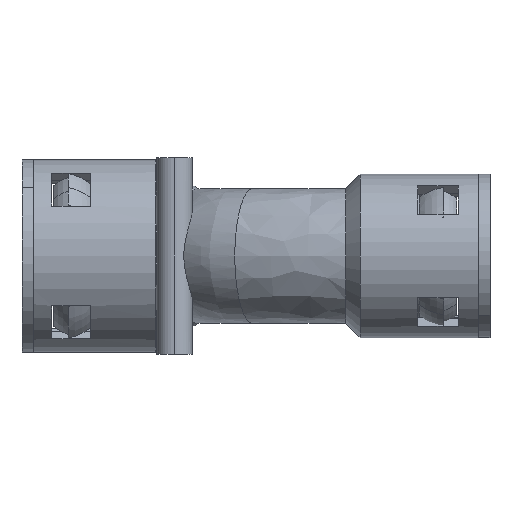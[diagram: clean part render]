
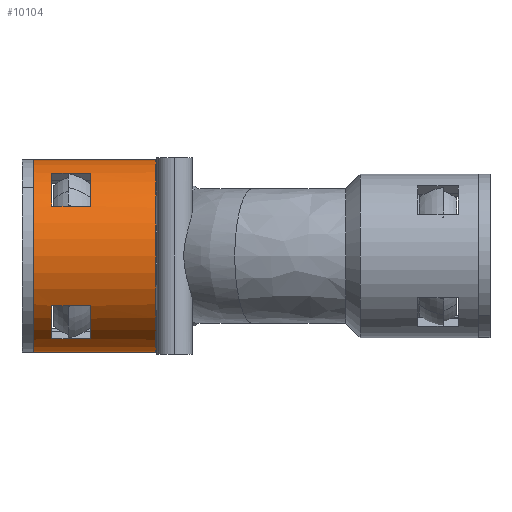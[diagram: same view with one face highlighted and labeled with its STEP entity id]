
A CAD part, left-side view. The second image highlights one B-rep face of the part: STEP entity #10104.
In plain terms, the highlighted cylindrical face has radius 26 mm (diameter 52 mm), a partial arc.
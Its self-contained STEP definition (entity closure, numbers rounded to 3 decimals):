
#237 = EDGE_CURVE ( 'NONE', #263, #972, #3185, .T. ) ;
#253 = VERTEX_POINT ( 'NONE', #3183 ) ;
#263 = VERTEX_POINT ( 'NONE', #1382 ) ;
#264 = ORIENTED_EDGE ( 'NONE', *, *, #527, .F. ) ;
#291 = EDGE_CURVE ( 'NONE', #952, #316, #1384, .T. ) ;
#299 = EDGE_CURVE ( 'NONE', #253, #356, #1377, .T. ) ;
#302 = ORIENTED_EDGE ( 'NONE', *, *, #551, .F. ) ;
#316 = VERTEX_POINT ( 'NONE', #1504 ) ;
#339 = VERTEX_POINT ( 'NONE', #1444 ) ;
#356 = VERTEX_POINT ( 'NONE', #1481 ) ;
#357 = ORIENTED_EDGE ( 'NONE', *, *, #299, .F. ) ;
#369 = EDGE_CURVE ( 'NONE', #316, #263, #1454, .T. ) ;
#374 = ORIENTED_EDGE ( 'NONE', *, *, #369, .F. ) ;
#384 = EDGE_CURVE ( 'NONE', #339, #253, #1455, .T. ) ;
#393 = ORIENTED_EDGE ( 'NONE', *, *, #384, .F. ) ;
#397 = EDGE_LOOP ( 'NONE', ( #357, #393, #264, #302 ) ) ;
#404 = ORIENTED_EDGE ( 'NONE', *, *, #291, .F. ) ;
#527 = EDGE_CURVE ( 'NONE', #544, #339, #1608, .T. ) ;
#544 = VERTEX_POINT ( 'NONE', #1668 ) ;
#551 = EDGE_CURVE ( 'NONE', #356, #544, #1661, .T. ) ;
#879 = ORIENTED_EDGE ( 'NONE', *, *, #237, .F. ) ;
#952 = VERTEX_POINT ( 'NONE', #2339 ) ;
#966 = EDGE_CURVE ( 'NONE', #972, #952, #2152, .T. ) ;
#972 = VERTEX_POINT ( 'NONE', #2349 ) ;
#1363 = DIRECTION ( 'NONE',  ( 0., 1., 0. ) ) ;
#1364 = VECTOR ( 'NONE', #1363, 1000. ) ;
#1376 = CARTESIAN_POINT ( 'NONE',  ( -22.265, 0., -13.426 ) ) ;
#1377 = LINE ( 'NONE', #1376, #1364 ) ;
#1382 = CARTESIAN_POINT ( 'NONE',  ( -13.426, 115., 22.265 ) ) ;
#1384 = CIRCLE ( 'NONE', #1400, 26. ) ;
#1388 = DIRECTION ( 'NONE',  ( 0., 0., -1. ) ) ;
#1392 = CARTESIAN_POINT ( 'NONE',  ( 0., 104.5, 0. ) ) ;
#1399 = DIRECTION ( 'NONE',  ( 0., 1., 0. ) ) ;
#1400 = AXIS2_PLACEMENT_3D ( 'NONE', #1392, #1399, #1388 ) ;
#1444 = CARTESIAN_POINT ( 'NONE',  ( -13.426, 104.5, -22.265 ) ) ;
#1454 = LINE ( 'NONE', #1469, #1468 ) ;
#1455 = CIRCLE ( 'NONE', #1458, 26. ) ;
#1458 = AXIS2_PLACEMENT_3D ( 'NONE', #1463, #1462, #1461 ) ;
#1461 = DIRECTION ( 'NONE',  ( 0., 0., -1. ) ) ;
#1462 = DIRECTION ( 'NONE',  ( 0., 1., 0. ) ) ;
#1463 = CARTESIAN_POINT ( 'NONE',  ( 0., 104.5, 0. ) ) ;
#1467 = DIRECTION ( 'NONE',  ( 0., 1., 0. ) ) ;
#1468 = VECTOR ( 'NONE', #1467, 1000. ) ;
#1469 = CARTESIAN_POINT ( 'NONE',  ( -13.426, 0., 22.265 ) ) ;
#1481 = CARTESIAN_POINT ( 'NONE',  ( -22.265, 115., -13.426 ) ) ;
#1504 = CARTESIAN_POINT ( 'NONE',  ( -13.426, 104.5, 22.265 ) ) ;
#1606 = VECTOR ( 'NONE', #1640, 1000. ) ;
#1608 = LINE ( 'NONE', #1632, #1606 ) ;
#1632 = CARTESIAN_POINT ( 'NONE',  ( -13.426, 0., -22.265 ) ) ;
#1640 = DIRECTION ( 'NONE',  ( 0., -1., 0. ) ) ;
#1661 = CIRCLE ( 'NONE', #1694, 26. ) ;
#1668 = CARTESIAN_POINT ( 'NONE',  ( -13.426, 115., -22.265 ) ) ;
#1669 = DIRECTION ( 'NONE',  ( 0., 0., 1. ) ) ;
#1670 = DIRECTION ( 'NONE',  ( 0., -1., 0. ) ) ;
#1694 = AXIS2_PLACEMENT_3D ( 'NONE', #1698, #1670, #1669 ) ;
#1698 = CARTESIAN_POINT ( 'NONE',  ( 0., 115., 0. ) ) ;
#2013 = VECTOR ( 'NONE', #2259, 1000. ) ;
#2148 = CARTESIAN_POINT ( 'NONE',  ( -22.265, 0., 13.426 ) ) ;
#2152 = LINE ( 'NONE', #2148, #2013 ) ;
#2259 = DIRECTION ( 'NONE',  ( 0., -1., 0. ) ) ;
#2339 = CARTESIAN_POINT ( 'NONE',  ( -22.265, 104.5, 13.426 ) ) ;
#2349 = CARTESIAN_POINT ( 'NONE',  ( -22.265, 115., 13.426 ) ) ;
#3176 = CARTESIAN_POINT ( 'NONE',  ( 0., 115., 0. ) ) ;
#3181 = DIRECTION ( 'NONE',  ( 0., 0., 1. ) ) ;
#3182 = DIRECTION ( 'NONE',  ( 0., -1., 0. ) ) ;
#3183 = CARTESIAN_POINT ( 'NONE',  ( -22.265, 104.5, -13.426 ) ) ;
#3185 = CIRCLE ( 'NONE', #3188, 26. ) ;
#3188 = AXIS2_PLACEMENT_3D ( 'NONE', #3176, #3182, #3181 ) ;
#6071 = DIRECTION ( 'NONE',  ( 0., 0., -1. ) ) ;
#6072 = DIRECTION ( 'NONE',  ( 0., -1., 0. ) ) ;
#6073 = CARTESIAN_POINT ( 'NONE',  ( 0., 87., 0. ) ) ;
#6074 = AXIS2_PLACEMENT_3D ( 'NONE', #6073, #6072, #6071 ) ;
#6094 = CIRCLE ( 'NONE', #6074, 26. ) ;
#10103 = EDGE_CURVE ( 'NONE', #10582, #10663, #11508, .T. ) ;
#10104 = ADVANCED_FACE ( 'NONE', ( #11342, #11426, #11489 ), #11382, .T. ) ;
#10112 = ORIENTED_EDGE ( 'NONE', *, *, #10643, .F. ) ;
#10113 = EDGE_LOOP ( 'NONE', ( #10112, #10114, #10136, #10126 ) ) ;
#10114 = ORIENTED_EDGE ( 'NONE', *, *, #10103, .T. ) ;
#10125 = ORIENTED_EDGE ( 'NONE', *, *, #966, .F. ) ;
#10126 = ORIENTED_EDGE ( 'NONE', *, *, #11751, .F. ) ;
#10135 = EDGE_LOOP ( 'NONE', ( #10125, #879, #374, #404 ) ) ;
#10136 = ORIENTED_EDGE ( 'NONE', *, *, #10618, .T. ) ;
#10439 = DIRECTION ( 'NONE',  ( 0., -1., 0. ) ) ;
#10440 = VECTOR ( 'NONE', #10439, 1000. ) ;
#10444 = CARTESIAN_POINT ( 'NONE',  ( 0., 0., -26. ) ) ;
#10445 = LINE ( 'NONE', #10444, #10440 ) ;
#10582 = VERTEX_POINT ( 'NONE', #10694 ) ;
#10618 = EDGE_CURVE ( 'NONE', #10663, #10628, #10445, .T. ) ;
#10628 = VERTEX_POINT ( 'NONE', #11161 ) ;
#10643 = EDGE_CURVE ( 'NONE', #10582, #10671, #11119, .T. ) ;
#10663 = VERTEX_POINT ( 'NONE', #11094 ) ;
#10671 = VERTEX_POINT ( 'NONE', #11256 ) ;
#10694 = CARTESIAN_POINT ( 'NONE',  ( 0., 120., 26. ) ) ;
#11046 = CARTESIAN_POINT ( 'NONE',  ( 0., 0., 26. ) ) ;
#11094 = CARTESIAN_POINT ( 'NONE',  ( 0., 120., -26. ) ) ;
#11108 = DIRECTION ( 'NONE',  ( 0., -1., 0. ) ) ;
#11109 = VECTOR ( 'NONE', #11108, 1000. ) ;
#11119 = LINE ( 'NONE', #11046, #11109 ) ;
#11161 = CARTESIAN_POINT ( 'NONE',  ( 0., 87., -26. ) ) ;
#11256 = CARTESIAN_POINT ( 'NONE',  ( 0., 87., 26. ) ) ;
#11342 = FACE_OUTER_BOUND ( 'NONE', #10113, .T. ) ;
#11382 = CYLINDRICAL_SURFACE ( 'NONE', #11412, 26. ) ;
#11409 = DIRECTION ( 'NONE',  ( 0., 0., -1. ) ) ;
#11410 = DIRECTION ( 'NONE',  ( 0., -1., 0. ) ) ;
#11411 = CARTESIAN_POINT ( 'NONE',  ( 0., 0., 0. ) ) ;
#11412 = AXIS2_PLACEMENT_3D ( 'NONE', #11411, #11410, #11409 ) ;
#11426 = FACE_BOUND ( 'NONE', #10135, .T. ) ;
#11435 = DIRECTION ( 'NONE',  ( 0., 0., -1. ) ) ;
#11436 = DIRECTION ( 'NONE',  ( 0., -1., 0. ) ) ;
#11437 = CARTESIAN_POINT ( 'NONE',  ( 0., 120., 0. ) ) ;
#11438 = AXIS2_PLACEMENT_3D ( 'NONE', #11437, #11436, #11435 ) ;
#11489 = FACE_BOUND ( 'NONE', #397, .T. ) ;
#11508 = CIRCLE ( 'NONE', #11438, 26. ) ;
#11751 = EDGE_CURVE ( 'NONE', #10671, #10628, #6094, .T. ) ;
